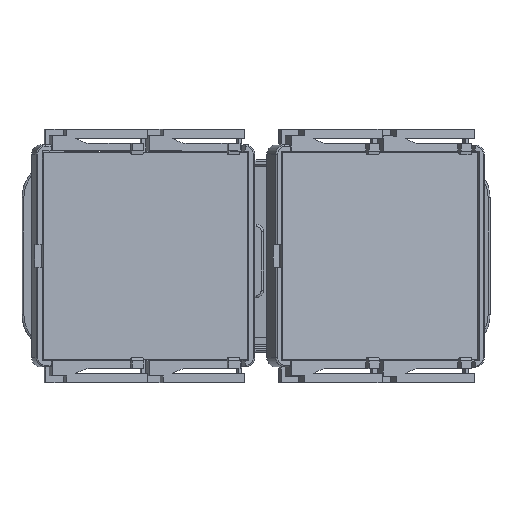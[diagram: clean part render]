
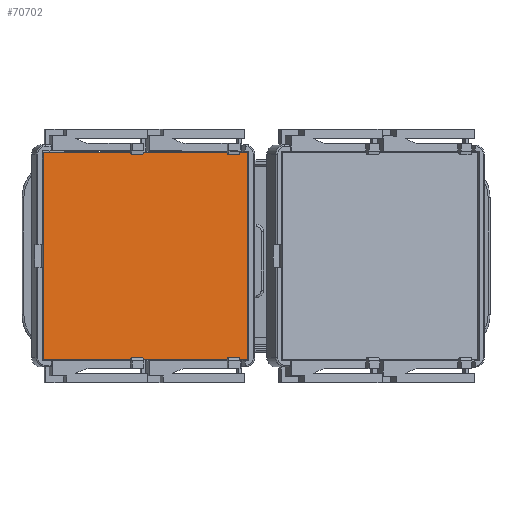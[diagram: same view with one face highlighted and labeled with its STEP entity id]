
A CAD part, top view. The second image highlights one B-rep face of the part: STEP entity #70702.
In plain terms, the highlighted planar face has unit normal (0.174, 0, 0.985).
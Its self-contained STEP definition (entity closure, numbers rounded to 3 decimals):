
#70388 = VERTEX_POINT('',#70389);
#70389 = CARTESIAN_POINT('',(-56.401,-27.5,60.73));
#70396 = PLANE('',#70397);
#70397 = AXIS2_PLACEMENT_3D('',#70398,#70399,#70400);
#70398 = CARTESIAN_POINT('',(-56.749,-27.5,58.76));
#70399 = DIRECTION('',(0.985,0.,-0.174));
#70400 = DIRECTION('',(0.174,0.,0.985));
#70408 = PLANE('',#70409);
#70409 = AXIS2_PLACEMENT_3D('',#70410,#70411,#70412);
#70410 = CARTESIAN_POINT('',(-56.749,-27.5,58.76));
#70411 = DIRECTION('',(0.,1.,0.));
#70412 = DIRECTION('',(0.174,0.,0.985));
#70449 = VERTEX_POINT('',#70450);
#70450 = CARTESIAN_POINT('',(-56.401,27.5,60.73));
#70464 = PLANE('',#70465);
#70465 = AXIS2_PLACEMENT_3D('',#70466,#70467,#70468);
#70466 = CARTESIAN_POINT('',(-56.749,27.5,58.76));
#70467 = DIRECTION('',(0.,1.,0.));
#70468 = DIRECTION('',(0.174,0.,0.985));
#70476 = EDGE_CURVE('',#70388,#70449,#70477,.T.);
#70477 = SURFACE_CURVE('',#70478,(#70482,#70489),.PCURVE_S1.);
#70478 = LINE('',#70479,#70480);
#70479 = CARTESIAN_POINT('',(-56.401,-27.5,60.73));
#70480 = VECTOR('',#70481,1.);
#70481 = DIRECTION('',(0.,1.,0.));
#70482 = PCURVE('',#70396,#70483);
#70483 = DEFINITIONAL_REPRESENTATION('',(#70484),#70488);
#70484 = LINE('',#70485,#70486);
#70485 = CARTESIAN_POINT('',(2.,0.));
#70486 = VECTOR('',#70487,1.);
#70487 = DIRECTION('',(0.,-1.));
#70488 = ( GEOMETRIC_REPRESENTATION_CONTEXT(2) 
PARAMETRIC_REPRESENTATION_CONTEXT() REPRESENTATION_CONTEXT('2D SPACE',''
  ) );
#70489 = PCURVE('',#70490,#70495);
#70490 = PLANE('',#70491);
#70491 = AXIS2_PLACEMENT_3D('',#70492,#70493,#70494);
#70492 = CARTESIAN_POINT('',(-56.401,-27.5,60.73));
#70493 = DIRECTION('',(0.174,0.,0.985));
#70494 = DIRECTION('',(0.985,0.,-0.174));
#70495 = DEFINITIONAL_REPRESENTATION('',(#70496),#70500);
#70496 = LINE('',#70497,#70498);
#70497 = CARTESIAN_POINT('',(0.,0.));
#70498 = VECTOR('',#70499,1.);
#70499 = DIRECTION('',(0.,1.));
#70500 = ( GEOMETRIC_REPRESENTATION_CONTEXT(2) 
PARAMETRIC_REPRESENTATION_CONTEXT() REPRESENTATION_CONTEXT('2D SPACE',''
  ) );
#70508 = VERTEX_POINT('',#70509);
#70509 = CARTESIAN_POINT('',(-2.237,-27.5,51.179));
#70516 = PLANE('',#70517);
#70517 = AXIS2_PLACEMENT_3D('',#70518,#70519,#70520);
#70518 = CARTESIAN_POINT('',(-2.584,-27.5,49.209));
#70519 = DIRECTION('',(0.985,0.,-0.174));
#70520 = DIRECTION('',(0.174,0.,0.985));
#70559 = VERTEX_POINT('',#70560);
#70560 = CARTESIAN_POINT('',(-2.237,27.5,51.179));
#70581 = EDGE_CURVE('',#70508,#70559,#70582,.T.);
#70582 = SURFACE_CURVE('',#70583,(#70587,#70594),.PCURVE_S1.);
#70583 = LINE('',#70584,#70585);
#70584 = CARTESIAN_POINT('',(-2.237,-27.5,51.179));
#70585 = VECTOR('',#70586,1.);
#70586 = DIRECTION('',(0.,1.,0.));
#70587 = PCURVE('',#70516,#70588);
#70588 = DEFINITIONAL_REPRESENTATION('',(#70589),#70593);
#70589 = LINE('',#70590,#70591);
#70590 = CARTESIAN_POINT('',(2.,0.));
#70591 = VECTOR('',#70592,1.);
#70592 = DIRECTION('',(0.,-1.));
#70593 = ( GEOMETRIC_REPRESENTATION_CONTEXT(2) 
PARAMETRIC_REPRESENTATION_CONTEXT() REPRESENTATION_CONTEXT('2D SPACE',''
  ) );
#70594 = PCURVE('',#70490,#70595);
#70595 = DEFINITIONAL_REPRESENTATION('',(#70596),#70600);
#70596 = LINE('',#70597,#70598);
#70597 = CARTESIAN_POINT('',(55.,0.));
#70598 = VECTOR('',#70599,1.);
#70599 = DIRECTION('',(0.,1.));
#70600 = ( GEOMETRIC_REPRESENTATION_CONTEXT(2) 
PARAMETRIC_REPRESENTATION_CONTEXT() REPRESENTATION_CONTEXT('2D SPACE',''
  ) );
#70627 = EDGE_CURVE('',#70388,#70508,#70628,.T.);
#70628 = SURFACE_CURVE('',#70629,(#70633,#70640),.PCURVE_S1.);
#70629 = LINE('',#70630,#70631);
#70630 = CARTESIAN_POINT('',(-56.401,-27.5,60.73));
#70631 = VECTOR('',#70632,1.);
#70632 = DIRECTION('',(0.985,0.,-0.174));
#70633 = PCURVE('',#70408,#70634);
#70634 = DEFINITIONAL_REPRESENTATION('',(#70635),#70639);
#70635 = LINE('',#70636,#70637);
#70636 = CARTESIAN_POINT('',(2.,0.));
#70637 = VECTOR('',#70638,1.);
#70638 = DIRECTION('',(0.,1.));
#70639 = ( GEOMETRIC_REPRESENTATION_CONTEXT(2) 
PARAMETRIC_REPRESENTATION_CONTEXT() REPRESENTATION_CONTEXT('2D SPACE',''
  ) );
#70640 = PCURVE('',#70490,#70641);
#70641 = DEFINITIONAL_REPRESENTATION('',(#70642),#70646);
#70642 = LINE('',#70643,#70644);
#70643 = CARTESIAN_POINT('',(0.,0.));
#70644 = VECTOR('',#70645,1.);
#70645 = DIRECTION('',(1.,0.));
#70646 = ( GEOMETRIC_REPRESENTATION_CONTEXT(2) 
PARAMETRIC_REPRESENTATION_CONTEXT() REPRESENTATION_CONTEXT('2D SPACE',''
  ) );
#70674 = EDGE_CURVE('',#70449,#70559,#70675,.T.);
#70675 = SURFACE_CURVE('',#70676,(#70680,#70687),.PCURVE_S1.);
#70676 = LINE('',#70677,#70678);
#70677 = CARTESIAN_POINT('',(-56.401,27.5,60.73));
#70678 = VECTOR('',#70679,1.);
#70679 = DIRECTION('',(0.985,0.,-0.174));
#70680 = PCURVE('',#70464,#70681);
#70681 = DEFINITIONAL_REPRESENTATION('',(#70682),#70686);
#70682 = LINE('',#70683,#70684);
#70683 = CARTESIAN_POINT('',(2.,0.));
#70684 = VECTOR('',#70685,1.);
#70685 = DIRECTION('',(0.,1.));
#70686 = ( GEOMETRIC_REPRESENTATION_CONTEXT(2) 
PARAMETRIC_REPRESENTATION_CONTEXT() REPRESENTATION_CONTEXT('2D SPACE',''
  ) );
#70687 = PCURVE('',#70490,#70688);
#70688 = DEFINITIONAL_REPRESENTATION('',(#70689),#70693);
#70689 = LINE('',#70690,#70691);
#70690 = CARTESIAN_POINT('',(0.,55.));
#70691 = VECTOR('',#70692,1.);
#70692 = DIRECTION('',(1.,0.));
#70693 = ( GEOMETRIC_REPRESENTATION_CONTEXT(2) 
PARAMETRIC_REPRESENTATION_CONTEXT() REPRESENTATION_CONTEXT('2D SPACE',''
  ) );
#70702 = ADVANCED_FACE('',(#70703),#70490,.T.);
#70703 = FACE_BOUND('',#70704,.T.);
#70704 = EDGE_LOOP('',(#70705,#70706,#70707,#70708));
#70705 = ORIENTED_EDGE('',*,*,#70476,.F.);
#70706 = ORIENTED_EDGE('',*,*,#70627,.T.);
#70707 = ORIENTED_EDGE('',*,*,#70581,.T.);
#70708 = ORIENTED_EDGE('',*,*,#70674,.F.);
